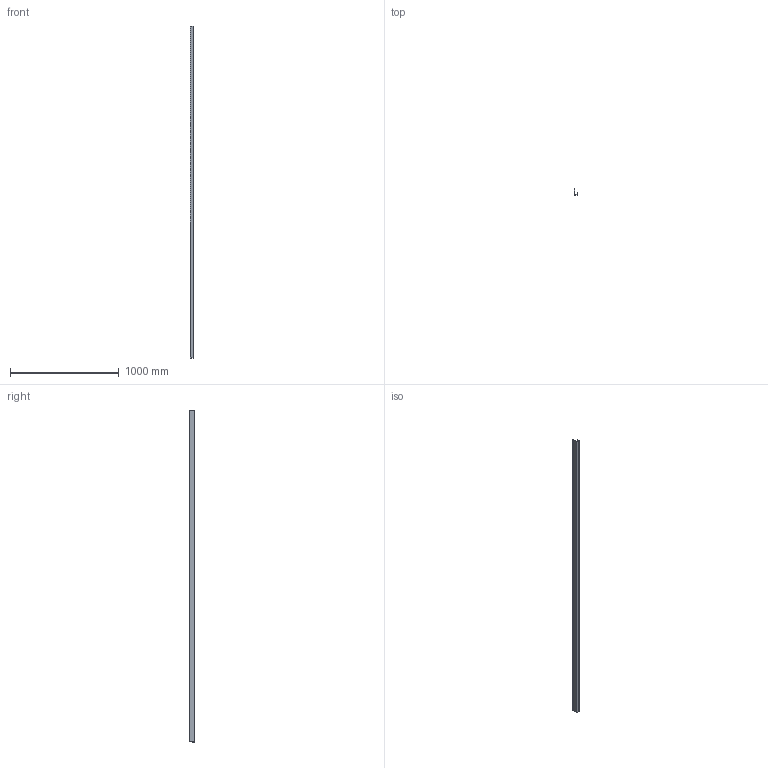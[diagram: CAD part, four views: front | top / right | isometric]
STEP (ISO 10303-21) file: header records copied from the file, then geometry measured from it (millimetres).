
FILE_DESCRIPTION (( 'STEP AP203' ), '1' );
FILE_NAME ('M02A.STEP', '2018-06-15T21:18:15', ( 'Michael Moliner' ), ( '' ), 'SwSTEP 2.0', 'SolidWorks 2018', '' );
FILE_SCHEMA (( 'CONFIG_CONTROL_DESIGN' ));
Length unit declared in the file: inch
Products named in the file (2): M02A
Bounding box: 28.71 x 50.8 x 3048 mm (x, y, z)
Volume: 225125.5 mm3; surface area: 889565.4 mm2
Topology: 1 solids, 1 shells, 26 faces, 72 edges, 48 vertices
Faces by surface type: plane 16, cylinder 10
Entity records: 993 total; most frequent: DIRECTION 148, CARTESIAN_POINT 148, ORIENTED_EDGE 144, EDGE_CURVE 72, LINE 52, VECTOR 52, VERTEX_POINT 48, AXIS2_PLACEMENT_3D 48
